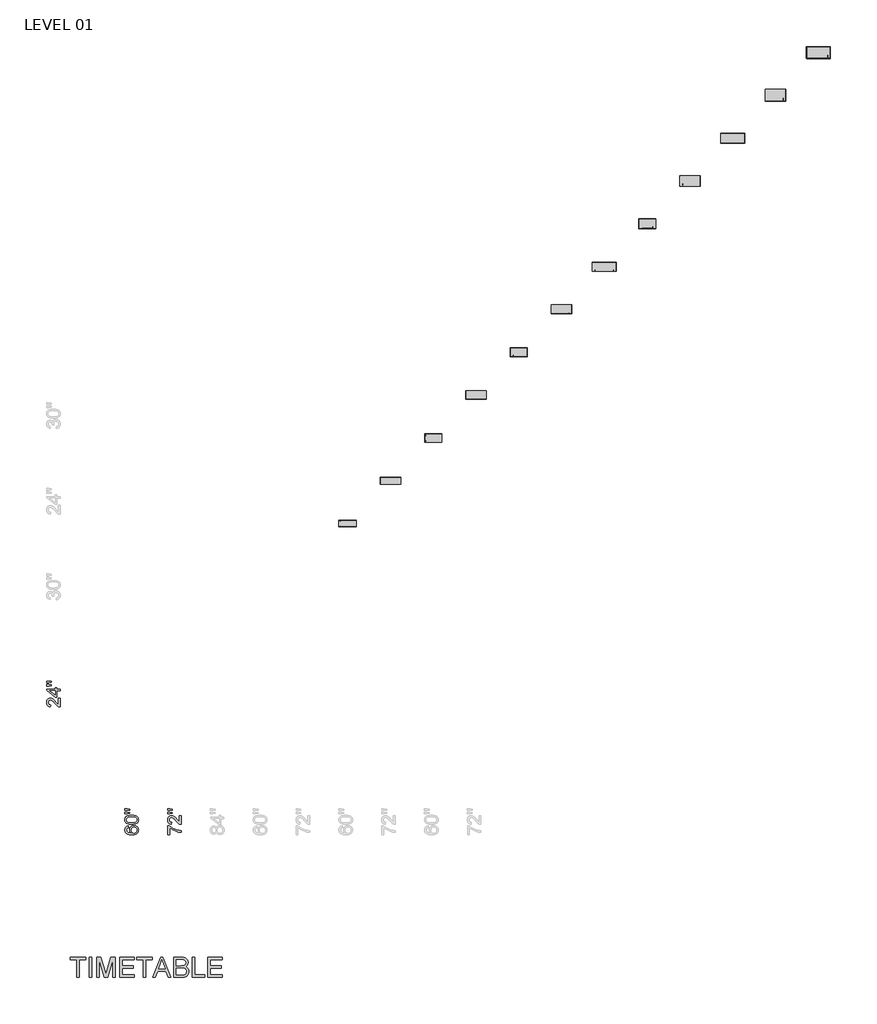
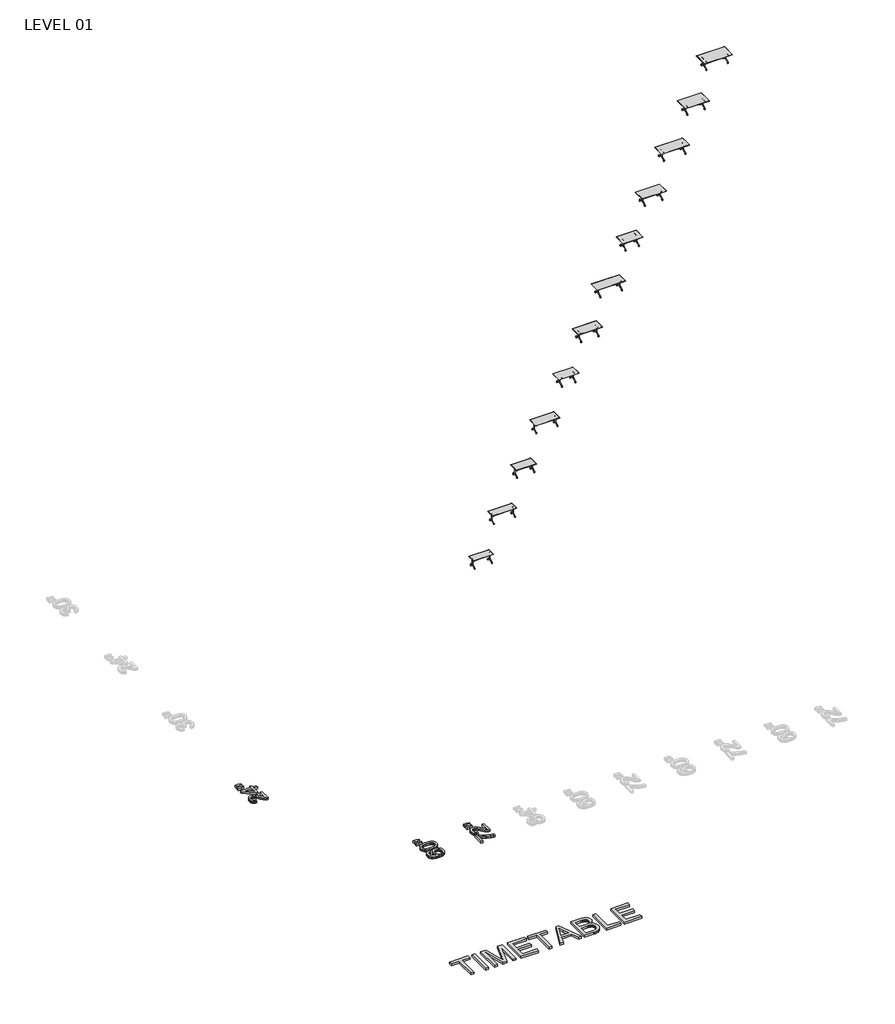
# One storey, part 1 of 3: 12 furniture elements, 4 proxies.
"""IFC4 building model written with IfcOpenShell, lengths in millimetres."""

from ifc_helpers import new_model, si_unit, origin, origin_with_axes, place, context, project, spatial, polyline, outline, extrude, transform, mapped, element, save
from components import furniture_b5b4e11f, furniture_c3fd8c45, furniture_d0fd1eb5, furniture_f33bda28, furniture_709e5f32, furniture_e656a5aa, furniture_a7c4bc05, furniture_fcad1af7, furniture_c69c2a70, furniture_2a83199a, furniture_5963346a, furniture_6e6cd4ee, furniture_8afd48f4, furniture_e58b94e2, furniture_46e24882, furniture_3bf29cbd, furniture_7bb8779a

model = new_model("IFC4")

# Units and contexts
model_context = context("Model", 3, world=origin())
ifc_project = project(units=[si_unit("LENGTHUNIT", "METRE", prefix="MILLI")], contexts=[model_context])

# Site, building, storey
site = spatial("IfcSite", under=ifc_project)
building = spatial("IfcBuilding", under=site)
storey = spatial("IfcBuildingStorey", under=building, Name="LEVEL 01", Elevation=0.0)

# Proxies
placement = place(None, origin())
element("IfcBuildingElementProxy", 1, Name="48\" Arial", ObjectType="48\" Arial", at=placement, inside=storey, context=model_context, shape_type="SweptSolid", body=[
    extrude(outline(polyline([(-23807.034924, -44634.505035), (-23788.2780009, -44784.5604197), (-23828.411222, -44795.5874389), (-23862.6462701, -44808.7392658), (-23890.9831451, -44824.0159004), (-23913.421847, -44841.4173427), (-23940.7329528, -44873.6741216), (-23960.2408855, -44909.4844581), (-23971.9456451, -44948.8483524), (-23975.8472316, -44991.7658043), (-23973.5758855, -45027.1548427), (-23966.761847, -45061.518112), (-23955.4051163, -45094.855612), (-23939.5056932, -45127.1673427), (-23913.5042749, -45156.6490495), (-23882.0992509, -45183.5480158), (-23845.2906211, -45207.8642418), (-23803.0783855, -45229.5977274), (-23752.6783134, -45247.5944822), (-23691.306174, -45260.7005158), (-23618.9619672, -45268.9158283), (-23535.6456932, -45272.2404197), (-23573.3518711, -45243.6379437), (-23605.8742509, -45212.0497466), (-23633.2128326, -45177.4758283), (-23655.3676163, -45139.9161889), (-23672.4851403, -45100.3782802), (-23684.7119432, -45059.8695543), (-23692.0480249, -45018.390011), (-23694.4933855, -44975.9396504), (-23692.8219312, -44939.1951312), (-23687.8075682, -44903.8427274), (-23679.4502966, -44869.8824389), (-23667.7501163, -44837.3142658), (-23652.7070273, -44806.1382081), (-23634.3210297, -44776.3542658), (-23612.5921235, -44747.9624389), (-23587.5203086, -44720.9627274), (-23559.8016427, -44696.3030519), (-23530.1321836, -44674.9313331), (-23498.5119312, -44656.8475711), (-23464.9408855, -44642.0517658), (-23429.4190466, -44630.5439173), (-23391.9464143, -44622.3240254), (-23352.5229889, -44617.3920903), (-23311.1487701, -44615.748112), (-23256.4441307, -44618.843737), (-23203.6994432, -44628.130612), (-23152.9147076, -44643.608737), (-23104.089924, -44665.278112), (-23059.0476643, -44692.36941), (-23019.6105009, -44724.1133043), (-22985.7784336, -44760.5097947), (-22957.5514624, -44801.5588812), (-22935.3050922, -44846.3813331), (-22919.4148278, -44894.0979197), (-22909.8806691, -44944.7086408), (-22906.7026163, -44998.2134966), (-22908.8091066, -45044.0227935), (-22915.1285778, -45087.6660687), (-22925.6610297, -45129.1433223), (-22940.4064624, -45168.4545543), (-22959.3648759, -45205.5997646), (-22982.5362701, -45240.5789533), (-23009.9206451, -45273.3921204), (-23041.5180009, -45304.0392658), (-23077.9511259, -45331.755642), (-23119.8428086, -45355.7765014), (-23167.193049, -45376.1018439), (-23220.001847, -45392.7316697), (-23278.2692028, -45405.6659786), (-23341.9951163, -45414.9047706), (-23411.1795874, -45420.4480459), (-23485.8226163, -45422.2958043), (-23569.3999119, -45420.2442658), (-23647.0698759, -45414.0896504), (-23718.8325081, -45403.8319581), (-23784.6878086, -45389.4711889), (-23844.6357773, -45371.0073427), (-23898.6764143, -45348.4404197), (-23946.8097196, -45321.7704197), (-23989.0356932, -45290.9973427), (-24021.1138783, -45261.1080759), (-24048.914972, -45228.7368139), (-24072.4389744, -45193.8835567), (-24091.6858855, -45156.5483043), (-24106.6557052, -45116.7310567), (-24117.3484336, -45074.4318139), (-24123.7640706, -45029.6505759), (-24125.9026163, -44982.3873427), (-24120.6089143, -44913.2761408), (-24104.7278086, -44850.722535), (-24078.259299, -44794.7265254), (-24041.2033855, -44745.288112), (-23994.8056451, -44703.7444581), (-23940.3116547, -44671.4327274), (-23877.7214143, -44648.3529197), (-23807.034924, -44634.505035)]), holes=[polyline([(-23313.4933855, -45272.2404197), (-23279.8719672, -45270.0698187), (-23247.0015586, -45263.5580158), (-23214.8821595, -45252.705011), (-23183.5137701, -45237.5108043), (-23154.3709336, -45218.7172466), (-23128.9281932, -45197.0661889), (-23107.185549, -45172.5576312), (-23089.1430009, -45145.1915735), (-23074.9745634, -45115.1420302), (-23064.8542509, -45082.5830158), (-23058.7820634, -45047.5145302), (-23056.7580009, -45009.9365735), (-23060.9526643, -44957.7780399), (-23073.5366547, -44910.9132081), (-23094.509972, -44869.3420783), (-23123.8726163, -44833.0646504), (-23160.4339624, -44803.6378956), (-23203.0033855, -44782.618785), (-23251.5808855, -44770.0073187), (-23306.1664624, -44765.8034966), (-23358.618073, -44769.9523668), (-23405.1898278, -44782.3989774), (-23445.8817268, -44803.1433283), (-23480.6937701, -44832.1854197), (-23508.5818711, -44868.5727514), (-23528.5019432, -44911.3528235), (-23540.4539865, -44960.525636), (-23544.4380009, -45016.0911889), (-23540.4539865, -45067.5536649), (-23528.5019432, -45114.9680158), (-23508.5818711, -45158.3342418), (-23480.6937701, -45197.6523427), (-23446.3396595, -45230.2846264), (-23407.0215586, -45253.5934004), (-23362.7394672, -45267.5786649), (-23313.4933855, -45272.2404197)])]), origin_with_axes(), (0.0, 0.0, 1.0), 152.4),
    extrude(outline(polyline([(-23516.0095393, -44484.4496504), (-23616.9470634, -44481.6928956), (-23708.158097, -44473.4226312), (-23789.6426403, -44459.6388572), (-23861.4006932, -44440.3415735), (-23924.0184095, -44415.6132081), (-23978.0819432, -44385.5361889), (-24023.5912941, -44350.1105158), (-24060.5464624, -44309.3361889), (-24089.1397797, -44263.0758283), (-24109.5635778, -44211.1920543), (-24121.8178566, -44153.6848668), (-24125.9026163, -44090.5542658), (-24123.4847316, -44043.1124389), (-24116.2310778, -43998.0884966), (-24104.1416547, -43955.4824389), (-24087.2164624, -43915.2942658), (-24065.7394191, -43878.4947947), (-24039.9944432, -43846.0548427), (-24009.9815345, -43817.97441), (-23975.7006932, -43794.2534966), (-23937.289299, -43773.7014774), (-23894.8847316, -43755.1277274), (-23798.0960778, -43723.915035), (-23741.1750441, -43711.9904677), (-23675.1869432, -43703.4729197), (-23600.1317749, -43698.3623908), (-23516.0095393, -43696.6588812), (-23415.7131211, -43699.38816), (-23324.9600201, -43707.5759966), (-23243.7502365, -43721.2223908), (-23172.0837701, -43740.3273427), (-23109.4385778, -43764.8633764), (-23055.2926163, -43794.8030158), (-23009.6458855, -43830.146261), (-22972.4983855, -43870.893112), (-22943.7127365, -43917.2084245), (-22923.1515586, -43969.2570543), (-22910.8148518, -44027.0390014), (-22906.7026163, -44090.5542658), (-22908.4885538, -44133.0504197), (-22913.8463663, -44173.2019581), (-22922.7760538, -44211.0088812), (-22935.2776163, -44246.4711889), (-22951.3510538, -44279.5888812), (-22970.9963663, -44310.3619581), (-22994.2135538, -44338.7904197), (-23021.0026163, -44364.8742658), (-23063.4209216, -44392.8997466), (-23111.3985297, -44417.1884966), (-23164.9354408, -44437.7405158), (-23224.0316547, -44454.5558043), (-23288.6871716, -44467.634362), (-23358.9019913, -44476.9761889), (-23434.6761139, -44482.581285), (-23516.0095393, -44484.4496504)]), holes=[polyline([(-23516.3026163, -44334.3942658), (-23385.8559095, -44329.998112), (-23280.2657893, -44316.8096504), (-23236.7919492, -44306.9183043), (-23199.5322557, -44294.8288812), (-23168.4867088, -44280.5413812), (-23143.6553086, -44264.0558043), (-23105.6377365, -44226.835035), (-23078.4823278, -44185.5111889), (-23062.1890826, -44140.0842658), (-23056.7580009, -44090.5542658), (-23062.2073999, -44041.0242658), (-23078.555597, -43995.5973427), (-23105.8025922, -43954.2734966), (-23143.9483855, -43917.0527274), (-23168.839317, -43900.5671504), (-23199.9169191, -43886.2796504), (-23237.181192, -43874.1902274), (-23280.6321355, -43864.2988812), (-23386.0940345, -43851.1104197), (-23516.3026163, -43846.7142658), (-23643.2965105, -43850.9638812), (-23747.027424, -43863.7127274), (-23790.1692629, -43873.274362), (-23827.4953566, -43884.9608043), (-23859.0057052, -43898.7720543), (-23884.7003086, -43914.708112), (-23924.5770874, -43951.3060927), (-23953.0605009, -43993.1061889), (-23970.150549, -44040.1084004), (-23975.8472316, -44092.3127274), (-23970.8282893, -44141.586285), (-23955.7714624, -44186.2438812), (-23930.6767509, -44226.2855158), (-23895.5441547, -44261.7111889), (-23867.1156932, -44278.746285), (-23833.2653086, -44293.510035), (-23793.9930009, -44306.0024389), (-23749.2987701, -44316.2234966), (-23643.6445393, -44329.8515735), (-23516.3026163, -44334.3942658)])]), origin_with_axes(), (0.0, 0.0, 1.0), 152.4),
    extrude(outline(polyline([(-23694.4933855, -43229.4942658), (-23926.3172316, -43265.2496504), (-24125.9026163, -43265.2496504), (-24125.9026163, -43115.1942658), (-23926.3172316, -43115.1942658), (-23694.4933855, -43150.3634966), (-23694.4933855, -43229.4942658)])), origin_with_axes(), (0.0, 0.0, 1.0), 152.4),
    extrude(outline(polyline([(-23694.4933855, -43528.7258043), (-23926.3172316, -43565.3604197), (-24125.9026163, -43565.3604197), (-24125.9026163, -43415.305035), (-23926.3172316, -43415.305035), (-23694.4933855, -43448.1296504), (-23694.4933855, -43528.7258043)])), origin_with_axes(), (0.0, 0.0, 1.0), 152.4),
])
element("IfcBuildingElementProxy", 2, Name="48\" Arial", ObjectType="48\" Arial", at=placement, inside=storey, context=model_context, shape_type="SweptSolid", body=[
    extrude(outline(polyline([(-20147.0903086, -45403.5388812), (-20297.1456932, -45403.5388812), (-20297.1456932, -44615.748112), (-20175.811847, -44615.748112), (-20109.5856211, -44672.0280399), (-20033.706174, -44728.0332081), (-19948.1735057, -44783.7636168), (-19852.9876163, -44839.2192658), (-19752.2698999, -44891.3961168), (-19650.1417509, -44937.2901312), (-19546.6031691, -44976.9013091), (-19441.6541547, -45010.2296504), (-19365.4358374, -45030.085612), (-19285.6639624, -45045.985035), (-19202.3385297, -45057.9279197), (-19115.4595393, -45065.9142658), (-19115.4595393, -45215.9696504), (-19189.1500682, -45211.2529437), (-19270.1308855, -45199.7405158), (-19358.4019913, -45181.4323668), (-19453.9633855, -45156.3284966), (-19552.2815345, -45124.7219822), (-19648.8229047, -45086.9059004), (-19743.5874961, -45042.8802514), (-19836.5753086, -44992.645035), (-19925.0570634, -44938.4624389), (-20006.3034816, -44882.5946504), (-20080.3145634, -44825.0416697), (-20147.0903086, -44765.8034966), (-20147.0903086, -45403.5388812)])), origin_with_axes(), (0.0, 0.0, 1.0), 152.4),
    extrude(outline(polyline([(-19265.514924, -43715.4158043), (-19115.4595393, -43715.4158043), (-19115.4595393, -44503.2065735), (-19168.2866547, -44499.9094581), (-19218.9156932, -44487.0873427), (-19259.6442268, -44470.729987), (-19299.7682893, -44450.0863812), (-19339.2878807, -44425.1565254), (-19378.2030009, -44395.9404197), (-19418.0339865, -44360.6796024), (-19460.301174, -44317.615612), (-19552.1441547, -44208.078112), (-19628.7654528, -44119.019362), (-19695.9716547, -44046.153112), (-19753.7627605, -43989.479362), (-19802.1387701, -43948.998112), (-19845.5141547, -43920.661237), (-19888.3033855, -43900.420612), (-19930.5064624, -43888.276237), (-19972.1233855, -43884.228112), (-20011.2766307, -43888.0472706), (-20047.2609816, -43899.5047466), (-20080.0764384, -43918.6005399), (-20109.7230009, -43945.3346504), (-20134.2773518, -43978.2233764), (-20151.816174, -44015.7830158), (-20162.3394672, -44058.0135687), (-20165.8472316, -44104.915035), (-20162.4218951, -44154.3259725), (-20152.1458855, -44198.5164774), (-20135.0192028, -44237.4865495), (-20111.041847, -44271.2361889), (-20081.0197797, -44298.538136), (-20045.7589624, -44318.1651312), (-20005.2593951, -44330.1171745), (-19959.5210778, -44334.3942658), (-19978.2780009, -44484.4496504), (-20055.7418951, -44471.5451072), (-20090.8058014, -44461.1294281), (-20123.424347, -44448.0714774), (-20153.5975321, -44432.371255), (-20181.3253566, -44414.028761), (-20206.6078206, -44393.0439954), (-20229.444924, -44369.4169581), (-20249.7084456, -44343.4040915), (-20267.2701643, -44315.2618379), (-20282.1300802, -44284.9901973), (-20294.2881932, -44252.5891697), (-20310.4990105, -44181.3989533), (-20315.9026163, -44101.6911889), (-20309.8945393, -44021.2690495), (-20302.3844432, -43984.3757021), (-20291.8703086, -43949.6941697), (-20278.3521355, -43917.2244521), (-20261.829924, -43886.9665495), (-20242.303674, -43858.9204617), (-20219.7733855, -43833.0861889), (-20195.0175441, -43809.9033463), (-20168.8146355, -43789.8115495), (-20141.1646595, -43772.8107983), (-20112.0676163, -43758.9010927), (-20081.5235057, -43748.0824329), (-20049.5323278, -43740.3548187), (-20016.0940826, -43735.7182502), (-19981.2087701, -43734.1727274), (-19945.1694672, -43735.8396024), (-19909.4415586, -43740.8402274), (-19874.0250441, -43749.1746024), (-19838.919924, -43760.8427274), (-19803.5125682, -43776.3849629), (-19767.189347, -43796.3416697), (-19691.7953086, -43849.4984966), (-19649.9860538, -43886.1789052), (-19601.7840586, -43934.234362), (-19486.201847, -44064.4704197), (-19341.8614624, -44237.0927274), (-19303.798097, -44274.5333043), (-19265.514924, -44304.7934966), (-19265.514924, -43715.4158043)])), origin_with_axes(), (0.0, 0.0, 1.0), 152.4),
    extrude(outline(polyline([(-19884.4933855, -43229.4942658), (-20116.3172316, -43265.2496504), (-20315.9026163, -43265.2496504), (-20315.9026163, -43115.1942658), (-20116.3172316, -43115.1942658), (-19884.4933855, -43150.3634966), (-19884.4933855, -43229.4942658)])), origin_with_axes(), (0.0, 0.0, 1.0), 152.4),
    extrude(outline(polyline([(-19884.4933855, -43528.7258043), (-20116.3172316, -43565.3604197), (-20315.9026163, -43565.3604197), (-20315.9026163, -43415.305035), (-20116.3172316, -43415.305035), (-19884.4933855, -43448.1296504), (-19884.4933855, -43528.7258043)])), origin_with_axes(), (0.0, 0.0, 1.0), 152.4),
])
element("IfcBuildingElementProxy", 3, Name="48\" Arial", ObjectType="48\" Arial", at=placement, inside=storey, context=model_context, shape_type="SweptSolid", body=[
    extrude(outline(polyline([(-30039.7057732, -33262.676665), (-29889.6503886, -33262.676665), (-29889.6503886, -34050.4674343), (-29942.477504, -34047.1703189), (-29993.1065425, -34034.3482035), (-30033.8350761, -34017.9908477), (-30073.9591386, -33997.3472419), (-30113.47873, -33972.4173862), (-30152.3938502, -33943.2012804), (-30192.2248357, -33907.9404631), (-30234.4920232, -33864.8764727), (-30326.335004, -33755.3389727), (-30402.9563021, -33666.2802227), (-30470.162504, -33593.4139727), (-30527.9536098, -33536.7402227), (-30576.3296194, -33496.2589727), (-30619.705004, -33467.9220977), (-30662.4942348, -33447.6814727), (-30704.6973117, -33435.5370977), (-30746.3142348, -33431.4889727), (-30785.46748, -33435.3081314), (-30821.4518309, -33446.7656073), (-30854.2672877, -33465.8614006), (-30883.9138502, -33492.5955112), (-30908.4682011, -33525.4842371), (-30926.0070232, -33563.0438766), (-30936.5303165, -33605.2744294), (-30940.0380809, -33652.1758958), (-30936.6127444, -33701.5868333), (-30926.3367348, -33745.7773381), (-30909.2100521, -33784.7474102), (-30885.2326963, -33818.4970496), (-30855.210629, -33845.7989968), (-30819.9498117, -33865.4259919), (-30779.4502444, -33877.3780352), (-30733.7119271, -33881.6551266), (-30752.4688502, -34031.7105112), (-30829.9327444, -34018.8059679), (-30864.9966506, -34008.3902888), (-30897.6151963, -33995.3323381), (-30927.7883814, -33979.6321157), (-30955.5162059, -33961.2896218), (-30980.7986699, -33940.3048561), (-31003.6357732, -33916.6778189), (-31023.8992949, -33890.6649523), (-31041.4610136, -33862.5226987), (-31056.3209295, -33832.2510581), (-31068.4790425, -33799.8500304), (-31084.6898598, -33728.6598141), (-31090.0934655, -33648.9520496), (-31084.0853886, -33568.5299102), (-31076.5752925, -33531.6365629), (-31066.0611579, -33496.9550304), (-31052.5429848, -33464.4853129), (-31036.0207732, -33434.2274102), (-31016.4945232, -33406.1813225), (-30993.9642348, -33380.3470496), (-30969.2083934, -33357.1642071), (-30943.0054848, -33337.0724102), (-30915.3555088, -33320.071659), (-30886.2584655, -33306.1619535), (-30855.714355, -33295.3432936), (-30823.7231771, -33287.6156794), (-30790.2849319, -33282.9791109), (-30755.3996194, -33281.4335881), (-30719.3603165, -33283.1004631), (-30683.6324079, -33288.1010881), (-30648.2158934, -33296.4354631), (-30613.1107732, -33308.1035881), (-30577.7034175, -33323.6458237), (-30541.3801963, -33343.6025304), (-30465.9861579, -33396.7593573), (-30424.176903, -33433.439766), (-30375.9749079, -33481.4952227), (-30260.3926963, -33611.7312804), (-30116.0523117, -33784.3535881), (-30077.9889463, -33821.794165), (-30039.7057732, -33852.0543573), (-30039.7057732, -33262.676665)])), origin_with_axes(), (0.0, 0.0, 1.0), 152.4),
    extrude(outline(polyline([(-29889.6503886, -32624.9412804), (-30171.0042348, -32624.9412804), (-30171.0042348, -33168.8920496), (-30321.0596194, -33168.8920496), (-31071.3365425, -32587.4274343), (-31071.3365425, -32474.8858958), (-30321.0596194, -32474.8858958), (-30321.0596194, -32324.8305112), (-30171.0042348, -32324.8305112), (-30171.0042348, -32474.8858958), (-29889.6503886, -32474.8858958), (-29889.6503886, -32624.9412804)]), holes=[polyline([(-30321.0596194, -32624.9412804), (-30784.7073117, -32624.9412804), (-30321.0596194, -32984.2535881), (-30321.0596194, -32624.9412804)])]), origin_with_axes(), (0.0, 0.0, 1.0), 152.4),
    extrude(outline(polyline([(-30658.6842348, -31857.6658958), (-30890.5080809, -31893.4212804), (-31090.0934655, -31893.4212804), (-31090.0934655, -31743.3658958), (-30890.5080809, -31743.3658958), (-30658.6842348, -31778.5351266), (-30658.6842348, -31857.6658958)])), origin_with_axes(), (0.0, 0.0, 1.0), 152.4),
    extrude(outline(polyline([(-30658.6842348, -32156.8974343), (-30890.5080809, -32193.5320496), (-31090.0934655, -32193.5320496), (-31090.0934655, -32043.476665), (-30890.5080809, -32043.476665), (-30658.6842348, -32076.3012804), (-30658.6842348, -32156.8974343)])), origin_with_axes(), (0.0, 0.0, 1.0), 152.4),
])
element("IfcBuildingElementProxy", 4, Name="72\" Arial", ObjectType="72\" Arial", at=placement, inside=storey, context=model_context, shape_type="SweptSolid", body=[
    extrude(outline(polyline([(-28399.1031344, -58124.5556235), (-28399.1031344, -56557.3294417), (-28986.8129526, -56557.3294417), (-28986.8129526, -56333.4399871), (-27587.5038617, -56333.4399871), (-27587.5038617, -56557.3294417), (-28175.2136799, -56557.3294417), (-28175.2136799, -58124.5556235), (-28399.1031344, -58124.5556235)])), origin_with_axes(), (0.0, 0.0, 1.0), 152.4),
    extrude(outline(polyline([(-27307.6420435, -58124.5556235), (-27307.6420435, -56333.4399871), (-27083.752589, -56333.4399871), (-27083.752589, -58124.5556235), (-27307.6420435, -58124.5556235)])), origin_with_axes(), (0.0, 0.0, 1.0), 152.4),
    extrude(outline(polyline([(-26635.9736799, -58124.5556235), (-26635.9736799, -56333.4399871), (-26250.7263958, -56333.4399871), (-25884.2823276, -57595.8791576), (-25810.3813163, -57859.5614644), (-25730.3583276, -57574.014953), (-25370.0362367, -56333.4399871), (-24984.7889526, -56333.4399871), (-24984.7889526, -58124.5556235), (-25208.6784072, -58124.5556235), (-25208.6784072, -56557.3294417), (-25658.6437367, -58124.5556235), (-25962.1188958, -58124.5556235), (-26412.0842253, -56557.3294417), (-26412.0842253, -58124.5556235), (-26635.9736799, -58124.5556235)])), origin_with_axes(), (0.0, 0.0, 1.0), 152.4),
    extrude(outline(polyline([(-24592.9824072, -58124.5556235), (-24592.9824072, -56333.4399871), (-23305.6180435, -56333.4399871), (-23305.6180435, -56557.3294417), (-24369.0929526, -56557.3294417), (-24369.0929526, -57089.0668962), (-23361.5904072, -57089.0668962), (-23361.5904072, -57312.9563508), (-24369.0929526, -57312.9563508), (-24369.0929526, -57900.6661689), (-23277.6318617, -57900.6661689), (-23277.6318617, -58124.5556235), (-24592.9824072, -58124.5556235)])), origin_with_axes(), (0.0, 0.0, 1.0), 152.4),
    extrude(outline(polyline([(-22494.0187708, -58124.5556235), (-22494.0187708, -56557.3294417), (-23081.728589, -56557.3294417), (-23081.728589, -56333.4399871), (-21682.4194981, -56333.4399871), (-21682.4194981, -56557.3294417), (-22270.1293163, -56557.3294417), (-22270.1293163, -58124.5556235), (-22494.0187708, -58124.5556235)])), origin_with_axes(), (0.0, 0.0, 1.0), 152.4),
    extrude(outline(polyline([(-21639.1283731, -58124.5556235), (-20924.1688844, -56333.4399871), (-20733.5130208, -56333.4399871), (-20018.5535322, -58124.5556235), (-20255.1242253, -58124.5556235), (-20460.210464, -57564.8319871), (-21197.9087253, -57564.8319871), (-21402.5576799, -58124.5556235), (-21639.1283731, -58124.5556235)]), holes=[polyline([(-21115.6993163, -57340.9425326), (-20541.982589, -57340.9425326), (-20703.3404185, -56900.597453), (-20828.8409526, -56557.3294417), (-20940.3483958, -56862.116453), (-21115.6993163, -57340.9425326)])]), origin_with_axes(), (0.0, 0.0, 1.0), 152.4),
    extrude(outline(polyline([(-19779.3591344, -58124.5556235), (-19779.3591344, -56333.4399871), (-19095.8841003, -56333.4399871), (-18996.7435979, -56336.7332829), (-18907.9066018, -56346.6131704), (-18829.3731121, -56363.0796494), (-18761.1431288, -56386.1327201), (-18701.4811806, -56416.0183547), (-18648.6517964, -56452.9825255), (-18602.6549761, -56497.0252325), (-18563.4907197, -56548.1464758), (-18532.211242, -56603.4629133), (-18509.868758, -56660.091203), (-18496.4632676, -56718.0313451), (-18491.9947708, -56777.2833394), (-18495.752681, -56832.0121764), (-18507.0264114, -56885.1285283), (-18525.8159622, -56936.6323951), (-18552.1213333, -56986.5237769), (-18586.0245155, -57033.244849), (-18627.6074995, -57075.2377868), (-18676.8702854, -57112.5025905), (-18733.8128731, -57145.0392598), (-18666.2388159, -57173.8453493), (-18606.9458262, -57211.2877996), (-18555.933904, -57257.3666107), (-18513.2030492, -57312.0817826), (-18479.4365183, -57373.7661696), (-18455.3175677, -57440.7526263), (-18440.8461973, -57513.0411526), (-18436.0224072, -57590.6317485), (-18439.315703, -57654.2155883), (-18449.1955904, -57715.5310169), (-18465.6620694, -57774.5780343), (-18488.7151401, -57831.3566405), (-18516.6329963, -57883.8034012), (-18547.6938319, -57929.854882), (-18581.8976469, -57969.511083), (-18619.2444413, -58002.7720042), (-18660.6087832, -58031.0041583), (-18706.865241, -58055.5740581), (-18758.0138145, -58076.4817037), (-18814.0545038, -58093.7270951), (-18875.861877, -58107.2145763), (-18944.3105023, -58116.8484914), (-19019.4003798, -58122.6288405), (-19101.1315094, -58124.5556235), (-19779.3591344, -58124.5556235)]), holes=[polyline([(-19555.4696799, -57061.0807144), (-19146.6090549, -57061.0807144), (-19003.6171572, -57056.2705894), (-18949.831214, -57050.2579331), (-18907.8519413, -57041.8402144), (-18863.1259778, -57027.3141835), (-18824.2760194, -57008.661284), (-18791.3020659, -56985.8815159), (-18764.2041174, -56958.9748792), (-18743.0641646, -56928.1326856), (-18727.9641984, -56893.5462471), (-18718.9042186, -56855.2155635), (-18715.8842253, -56813.1406348), (-18718.6992417, -56772.855838), (-18727.1442907, -56735.0854246), (-18741.2193724, -56699.8293948), (-18760.9244867, -56667.0877485), (-18785.8770101, -56638.0766821), (-18815.6943191, -56614.0123919), (-18850.3764136, -56594.8948781), (-18889.9232935, -56580.7241405), (-18939.3910563, -56570.4889598), (-19003.8357992, -56563.1781164), (-19083.2575222, -56558.7916103), (-19177.6562253, -56557.3294417), (-19555.4696799, -56557.3294417), (-19555.4696799, -57061.0807144)]), polyline([(-19555.4696799, -57900.6661689), (-19096.3213844, -57900.6661689), (-18995.7460435, -57898.4797485), (-18930.1534299, -57891.9204871), (-18889.8822981, -57883.461773), (-18853.0274484, -57872.5160056), (-18819.5888805, -57859.0831849), (-18789.5665947, -57843.163311), (-18762.5096415, -57824.0731274), (-18737.9670719, -57801.1293777), (-18715.9388859, -57774.332062), (-18696.4250833, -57743.6811803), (-18680.4505489, -57709.8189935), (-18669.0401671, -57673.3877627), (-18662.1939381, -57634.3874878), (-18659.9118617, -57592.8181689), (-18662.5902268, -57544.3889559), (-18670.6253219, -57499.2393735), (-18684.0171472, -57457.3694218), (-18702.7657026, -57418.7791008), (-18727.5132491, -57384.5752858), (-18758.9020478, -57355.8648522), (-18796.9320986, -57332.6478), (-18841.6034015, -57314.9241292), (-18894.8837349, -57301.8192716), (-18958.7408773, -57292.458659), (-19033.1748287, -57286.8422915), (-19118.185589, -57284.9701689), (-19555.4696799, -57284.9701689), (-19555.4696799, -57900.6661689)])]), origin_with_axes(), (0.0, 0.0, 1.0), 152.4),
    extrude(outline(polyline([(-18128.1744072, -58124.5556235), (-18128.1744072, -56333.4399871), (-17904.2849526, -56333.4399871), (-17904.2849526, -57900.6661689), (-17008.7271344, -57900.6661689), (-17008.7271344, -58124.5556235), (-18128.1744072, -58124.5556235)])), origin_with_axes(), (0.0, 0.0, 1.0), 152.4),
    extrude(outline(polyline([(-16756.8514981, -58124.5556235), (-16756.8514981, -56333.4399871), (-15469.4871344, -56333.4399871), (-15469.4871344, -56557.3294417), (-16532.9620435, -56557.3294417), (-16532.9620435, -57089.0668962), (-15525.4594981, -57089.0668962), (-15525.4594981, -57312.9563508), (-16532.9620435, -57312.9563508), (-16532.9620435, -57900.6661689), (-15441.5009526, -57900.6661689), (-15441.5009526, -58124.5556235), (-16756.8514981, -58124.5556235)])), origin_with_axes(), (0.0, 0.0, 1.0), 152.4),
])

# Furniture
furniture_shape = furniture_b5b4e11f(model_context)
furniture_2_shape = furniture_c3fd8c45(model_context)
element("IfcFurniture", 5, ObjectType="Furniture_Wilkhahn_Timetable_612-51_Smart : 24\"W x 60\"L", at=placement, inside=storey, context=model_context, shape_type="MappedRepresentation", body=[
    mapped(furniture_shape, transform((-4305.5816773, -17849.6893579, 0.0), x_axis=(1.0, 0.0, 0.0), y_axis=(0.0, 1.0, 0.0), z_axis=(0.0, 0.0, 1.0))),
    mapped(furniture_2_shape, transform((-4305.5816773, -17849.6893579, 0.0), x_axis=(1.0, 0.0, 0.0), y_axis=(0.0, 1.0, 0.0), z_axis=(0.0, 0.0, 1.0))),
])
furniture_3_shape = furniture_d0fd1eb5(model_context)
furniture_4_shape = furniture_f33bda28(model_context)
element("IfcFurniture", 6, ObjectType="Furniture_Wilkhahn_Timetable_612-51_Smart : 24\"W x 72\"L", at=placement, inside=storey, context=model_context, shape_type="MappedRepresentation", body=[
    mapped(furniture_3_shape, transform((-495.5816773, -14039.6893579, 0.0), x_axis=(1.0, 0.0, 0.0), y_axis=(0.0, 1.0, 0.0), z_axis=(0.0, 0.0, 1.0))),
    mapped(furniture_4_shape, transform((-495.5816773, -14039.6893579, 0.0), x_axis=(1.0, 0.0, 0.0), y_axis=(0.0, 1.0, 0.0), z_axis=(0.0, 0.0, 1.0))),
])
furniture_5_shape = furniture_709e5f32(model_context)
element("IfcFurniture", 7, ObjectType="Furniture_Wilkhahn_Timetable_612-51_Smart : 30\"W x 60\"L", at=placement, inside=storey, context=model_context, shape_type="MappedRepresentation", body=[
    mapped(furniture_shape, transform((3314.4183227, -10229.6893579, 0.0), x_axis=(1.0, 0.0, 0.0), y_axis=(0.0, 1.0, 0.0), z_axis=(0.0, 0.0, 1.0))),
    mapped(furniture_5_shape, transform((3314.4183227, -10229.6893579, 0.0), x_axis=(1.0, 0.0, 0.0), y_axis=(0.0, 1.0, 0.0), z_axis=(0.0, 0.0, 1.0))),
])
furniture_6_shape = furniture_e656a5aa(model_context)
element("IfcFurniture", 8, ObjectType="Furniture_Wilkhahn_Timetable_612-51_Smart : 30\"W x 72\"L", at=placement, inside=storey, context=model_context, shape_type="MappedRepresentation", body=[
    mapped(furniture_3_shape, transform((7124.4183227, -6419.6893579, 0.0), x_axis=(1.0, 0.0, 0.0), y_axis=(0.0, 1.0, 0.0), z_axis=(0.0, 0.0, 1.0))),
    mapped(furniture_6_shape, transform((7124.4183227, -6419.6893579, 0.0), x_axis=(1.0, 0.0, 0.0), y_axis=(0.0, 1.0, 0.0), z_axis=(0.0, 0.0, 1.0))),
])
furniture_7_shape = furniture_a7c4bc05(model_context)
furniture_8_shape = furniture_fcad1af7(model_context)
element("IfcFurniture", 9, ObjectType="Furniture_Wilkhahn_Timetable_614-00_Shift : 32\"W x 60\"L", at=placement, inside=storey, context=model_context, shape_type="MappedRepresentation", body=[
    mapped(furniture_7_shape, transform((10934.4183227, -2384.6893579, 0.0), x_axis=(1.0, 0.0, 0.0), y_axis=(0.0, 1.0, 0.0), z_axis=(0.0, 0.0, 1.0))),
    mapped(furniture_8_shape, transform((10934.4183227, -2384.6893579, 0.0), x_axis=(1.0, 0.0, 0.0), y_axis=(0.0, 1.0, 0.0), z_axis=(0.0, 0.0, 1.0))),
])
furniture_9_shape = furniture_c69c2a70(model_context)
furniture_10_shape = furniture_2a83199a(model_context)
element("IfcFurniture", 10, ObjectType="Furniture_Wilkhahn_Timetable_614-00_Shift : 32\"W x 72\"L", at=placement, inside=storey, context=model_context, shape_type="MappedRepresentation", body=[
    mapped(furniture_9_shape, transform((14744.4183227, 1425.3106421, 0.0), x_axis=(1.0, 0.0, 0.0), y_axis=(0.0, 1.0, 0.0), z_axis=(0.0, 0.0, 1.0))),
    mapped(furniture_10_shape, transform((14744.4183227, 1425.3106421, 0.0), x_axis=(1.0, 0.0, 0.0), y_axis=(0.0, 1.0, 0.0), z_axis=(0.0, 0.0, 1.0))),
])
furniture_11_shape = furniture_5963346a(model_context)
furniture_12_shape = furniture_6e6cd4ee(model_context)
element("IfcFurniture", 11, ObjectType="Furniture_Wilkhahn_Timetable_614-00_Shift : 32\"W x 84\"L", at=placement, inside=storey, context=model_context, shape_type="MappedRepresentation", body=[
    mapped(furniture_11_shape, transform((18554.4183227, 5235.3106421, 0.0), x_axis=(1.0, 0.0, 0.0), y_axis=(0.0, 1.0, 0.0), z_axis=(0.0, 0.0, 1.0))),
    mapped(furniture_12_shape, transform((18554.4183227, 5235.3106421, 0.0), x_axis=(1.0, 0.0, 0.0), y_axis=(0.0, 1.0, 0.0), z_axis=(0.0, 0.0, 1.0))),
])
furniture_13_shape = furniture_8afd48f4(model_context)
element("IfcFurniture", 12, ObjectType="Furniture_Wilkhahn_Timetable_614-00_Shift : 36\"W x 60\"L", at=placement, inside=storey, context=model_context, shape_type="MappedRepresentation", body=[
    mapped(furniture_7_shape, transform((22364.4183227, 9045.3106421, 0.0), x_axis=(1.0, 0.0, 0.0), y_axis=(0.0, 1.0, 0.0), z_axis=(0.0, 0.0, 1.0))),
    mapped(furniture_13_shape, transform((22364.4183227, 9045.3106421, 0.0), x_axis=(1.0, 0.0, 0.0), y_axis=(0.0, 1.0, 0.0), z_axis=(0.0, 0.0, 1.0))),
])
furniture_14_shape = furniture_e58b94e2(model_context)
element("IfcFurniture", 13, ObjectType="Furniture_Wilkhahn_Timetable_614-00_Shift : 36\"W x 72\"L", at=placement, inside=storey, context=model_context, shape_type="MappedRepresentation", body=[
    mapped(furniture_9_shape, transform((26174.4183227, 12855.3106421, 0.0), x_axis=(1.0, 0.0, 0.0), y_axis=(0.0, 1.0, 0.0), z_axis=(0.0, 0.0, 1.0))),
    mapped(furniture_14_shape, transform((26174.4183227, 12855.3106421, 0.0), x_axis=(1.0, 0.0, 0.0), y_axis=(0.0, 1.0, 0.0), z_axis=(0.0, 0.0, 1.0))),
])
furniture_15_shape = furniture_46e24882(model_context)
element("IfcFurniture", 14, ObjectType="Furniture_Wilkhahn_Timetable_614-00_Shift : 36\"W x 84\"L", at=placement, inside=storey, context=model_context, shape_type="MappedRepresentation", body=[
    mapped(furniture_11_shape, transform((29984.4183227, 16665.3106421, 0.0), x_axis=(1.0, 0.0, 0.0), y_axis=(0.0, 1.0, 0.0), z_axis=(0.0, 0.0, 1.0))),
    mapped(furniture_15_shape, transform((29984.4183227, 16665.3106421, 0.0), x_axis=(1.0, 0.0, 0.0), y_axis=(0.0, 1.0, 0.0), z_axis=(0.0, 0.0, 1.0))),
])
furniture_16_shape = furniture_3bf29cbd(model_context)
element("IfcFurniture", 15, ObjectType="Furniture_Wilkhahn_Timetable_614-00_Shift : 42\"W x 72\"L", at=placement, inside=storey, context=model_context, shape_type="MappedRepresentation", body=[
    mapped(furniture_9_shape, transform((33794.4183227, 20475.3106421, 0.0), x_axis=(1.0, 0.0, 0.0), y_axis=(0.0, 1.0, 0.0), z_axis=(0.0, 0.0, 1.0))),
    mapped(furniture_16_shape, transform((33794.4183227, 20475.3106421, 0.0), x_axis=(1.0, 0.0, 0.0), y_axis=(0.0, 1.0, 0.0), z_axis=(0.0, 0.0, 1.0))),
])
furniture_17_shape = furniture_7bb8779a(model_context)
element("IfcFurniture", 16, ObjectType="Furniture_Wilkhahn_Timetable_614-00_Shift : 42\"W x 84\"L", at=placement, inside=storey, context=model_context, shape_type="MappedRepresentation", body=[
    mapped(furniture_11_shape, transform((37604.4183227, 24285.3106421, 0.0), x_axis=(1.0, 0.0, 0.0), y_axis=(0.0, 1.0, 0.0), z_axis=(0.0, 0.0, 1.0))),
    mapped(furniture_17_shape, transform((37604.4183227, 24285.3106421, 0.0), x_axis=(1.0, 0.0, 0.0), y_axis=(0.0, 1.0, 0.0), z_axis=(0.0, 0.0, 1.0))),
])

save(model, "model.ifc")
